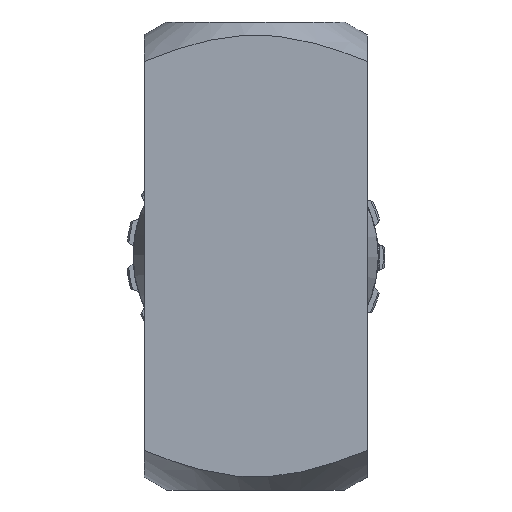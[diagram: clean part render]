
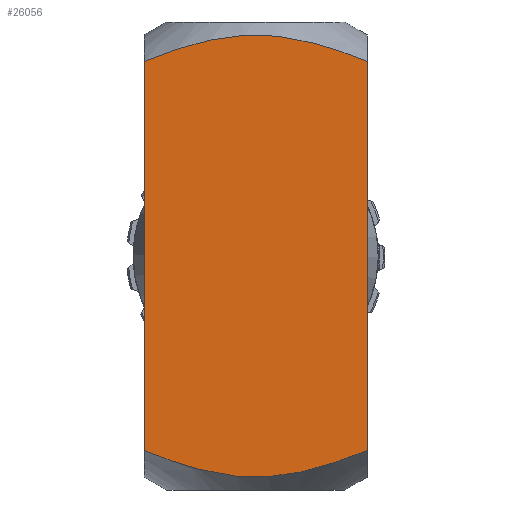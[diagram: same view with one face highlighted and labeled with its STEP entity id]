
A CAD part, front view. The second image highlights one B-rep face of the part: STEP entity #26056.
In plain terms, the highlighted planar face has unit normal (0, -1, 0).
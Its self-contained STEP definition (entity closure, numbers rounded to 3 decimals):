
#132 = CARTESIAN_POINT ( 'NONE',  ( 25., -25., 96.135 ) ) ;
#458 = CARTESIAN_POINT ( 'NONE',  ( -2.626, -25., 2.963 ) ) ;
#1526 = DIRECTION ( 'NONE',  ( 0., 0., 1. ) ) ;
#1592 = ORIENTED_EDGE ( 'NONE', *, *, #19883, .F. ) ;
#2486 = DIRECTION ( 'NONE',  ( 0., 0., -1. ) ) ;
#2592 = ORIENTED_EDGE ( 'NONE', *, *, #13751, .T. ) ;
#3212 = CARTESIAN_POINT ( 'NONE',  ( -0.45, -25., 102.114 ) ) ;
#3521 = CARTESIAN_POINT ( 'NONE',  ( 17.943, -25., 6.213 ) ) ;
#3669 = CARTESIAN_POINT ( 'NONE',  ( -5.328, -25., 3.199 ) ) ;
#4651 = FACE_OUTER_BOUND ( 'NONE', #39161, .T. ) ;
#5584 = LINE ( 'NONE', #40358, #22330 ) ;
#6253 = CARTESIAN_POINT ( 'NONE',  ( -17.906, -25., 98.799 ) ) ;
#6391 = CARTESIAN_POINT ( 'NONE',  ( 4.391, -25., 101.94 ) ) ;
#6715 = CARTESIAN_POINT ( 'NONE',  ( 14.855, -25., 5.235 ) ) ;
#6852 = CARTESIAN_POINT ( 'NONE',  ( -10.64, -25., 4.103 ) ) ;
#9424 = CARTESIAN_POINT ( 'NONE',  ( 25., -25., 8.865 ) ) ;
#9445 = CARTESIAN_POINT ( 'NONE',  ( -14.808, -25., 99.779 ) ) ;
#9575 = CARTESIAN_POINT ( 'NONE',  ( 10.71, -25., 100.881 ) ) ;
#9615 = CARTESIAN_POINT ( 'NONE',  ( 25., -25., 8.865 ) ) ;
#9653 = AXIS2_PLACEMENT_3D ( 'NONE', #39317, #20367, #1526 ) ;
#9902 = CARTESIAN_POINT ( 'NONE',  ( 10.71, -25., 4.119 ) ) ;
#10027 = CARTESIAN_POINT ( 'NONE',  ( -14.808, -25., 5.221 ) ) ;
#11616 = CARTESIAN_POINT ( 'NONE',  ( 25., -25., 96.135 ) ) ;
#12463 = ORIENTED_EDGE ( 'NONE', *, *, #17964, .F. ) ;
#12560 = CARTESIAN_POINT ( 'NONE',  ( -10.64, -25., 100.897 ) ) ;
#12697 = CARTESIAN_POINT ( 'NONE',  ( 14.855, -25., 99.765 ) ) ;
#13000 = CARTESIAN_POINT ( 'NONE',  ( 4.391, -25., 3.06 ) ) ;
#13141 = CARTESIAN_POINT ( 'NONE',  ( -17.906, -25., 6.201 ) ) ;
#13751 = EDGE_CURVE ( 'NONE', #35278, #37828, #5584, .T. ) ;
#15732 = CARTESIAN_POINT ( 'NONE',  ( -5.328, -25., 101.801 ) ) ;
#15855 = CARTESIAN_POINT ( 'NONE',  ( 17.943, -25., 98.787 ) ) ;
#16184 = CARTESIAN_POINT ( 'NONE',  ( -0.45, -25., 2.886 ) ) ;
#16309 = CARTESIAN_POINT ( 'NONE',  ( -22.998, -25., 8.048 ) ) ;
#17964 = EDGE_CURVE ( 'NONE', #34585, #37828, #18358, .T. ) ;
#18220 = CARTESIAN_POINT ( 'NONE',  ( 25., -25., 105. ) ) ;
#18358 = B_SPLINE_CURVE_WITH_KNOTS ( 'NONE', 3,
 ( #9615, #19249, #22364, #3521, #25565, #6715, #28723, #9902, #31941, #13000, #35099, #16184, #38286, #19366, #458, #22501, #3669, #25695, #6852, #28869, #10027, #32074, #13141, #35223, #16309, #38424 ),
 .UNSPECIFIED., .F., .F.,
 ( 4, 2, 2, 2, 2, 2, 2, 2, 2, 2, 2, 2, 4 ),
 ( 0.065, 0.072, 0.075, 0.078, 0.085, 0.091, 0.093, 0.094, 0.097, 0.104, 0.107, 0.11, 0.117 ),
 .UNSPECIFIED. ) ;
#18797 = CARTESIAN_POINT ( 'NONE',  ( -22.998, -25., 96.952 ) ) ;
#18939 = CARTESIAN_POINT ( 'NONE',  ( -2.626, -25., 102.037 ) ) ;
#19082 = CARTESIAN_POINT ( 'NONE',  ( 23.011, -25., 96.947 ) ) ;
#19249 = CARTESIAN_POINT ( 'NONE',  ( 23.011, -25., 8.053 ) ) ;
#19366 = CARTESIAN_POINT ( 'NONE',  ( -2.081, -25., 2.933 ) ) ;
#19883 = EDGE_CURVE ( 'NONE', #35278, #29716, #38314, .T. ) ;
#20367 = DIRECTION ( 'NONE',  ( 0., 1., 0. ) ) ;
#21264 = DIRECTION ( 'NONE',  ( 0., 0., -1. ) ) ;
#21918 = CARTESIAN_POINT ( 'NONE',  ( -25., -25., 96.135 ) ) ;
#22060 = CARTESIAN_POINT ( 'NONE',  ( -0.993, -25., 102.105 ) ) ;
#22330 = VECTOR ( 'NONE', #21264, 1000. ) ;
#22364 = CARTESIAN_POINT ( 'NONE',  ( 21.002, -25., 7.281 ) ) ;
#22501 = CARTESIAN_POINT ( 'NONE',  ( -4.252, -25., 3.081 ) ) ;
#25103 = CARTESIAN_POINT ( 'NONE',  ( -20.978, -25., 97.728 ) ) ;
#25239 = CARTESIAN_POINT ( 'NONE',  ( 2.255, -25., 102.109 ) ) ;
#25565 = CARTESIAN_POINT ( 'NONE',  ( 16.915, -25., 5.873 ) ) ;
#25695 = CARTESIAN_POINT ( 'NONE',  ( -8.532, -25., 3.657 ) ) ;
#26056 = ADVANCED_FACE ( 'NONE', ( #4651 ), #26596, .F. ) ;
#26104 = LINE ( 'NONE', #18220, #33541 ) ;
#26596 = PLANE ( 'NONE',  #9653 ) ;
#28282 = CARTESIAN_POINT ( 'NONE',  ( -16.875, -25., 99.14 ) ) ;
#28423 = CARTESIAN_POINT ( 'NONE',  ( 8.619, -25., 101.325 ) ) ;
#28549 = ORIENTED_EDGE ( 'NONE', *, *, #39533, .F. ) ;
#28723 = CARTESIAN_POINT ( 'NONE',  ( 13.822, -25., 4.937 ) ) ;
#28869 = CARTESIAN_POINT ( 'NONE',  ( -13.77, -25., 4.923 ) ) ;
#29716 = VERTEX_POINT ( 'NONE', #11616 ) ;
#31509 = CARTESIAN_POINT ( 'NONE',  ( -13.77, -25., 100.077 ) ) ;
#31641 = CARTESIAN_POINT ( 'NONE',  ( 13.822, -25., 100.063 ) ) ;
#31941 = CARTESIAN_POINT ( 'NONE',  ( 8.619, -25., 3.675 ) ) ;
#32074 = CARTESIAN_POINT ( 'NONE',  ( -16.875, -25., 5.86 ) ) ;
#33541 = VECTOR ( 'NONE', #2486, 1000. ) ;
#34585 = VERTEX_POINT ( 'NONE', #9424 ) ;
#34659 = CARTESIAN_POINT ( 'NONE',  ( -8.532, -25., 101.343 ) ) ;
#34798 = CARTESIAN_POINT ( 'NONE',  ( 16.915, -25., 99.127 ) ) ;
#35099 = CARTESIAN_POINT ( 'NONE',  ( 2.255, -25., 2.891 ) ) ;
#35223 = CARTESIAN_POINT ( 'NONE',  ( -20.978, -25., 7.272 ) ) ;
#35278 = VERTEX_POINT ( 'NONE', #40669 ) ;
#37828 = VERTEX_POINT ( 'NONE', #40135 ) ;
#37834 = CARTESIAN_POINT ( 'NONE',  ( -4.252, -25., 101.919 ) ) ;
#37982 = CARTESIAN_POINT ( 'NONE',  ( 21.002, -25., 97.719 ) ) ;
#38286 = CARTESIAN_POINT ( 'NONE',  ( -0.993, -25., 2.895 ) ) ;
#38314 = B_SPLINE_CURVE_WITH_KNOTS ( 'NONE', 3,
 ( #21918, #18797, #25103, #6253, #28282, #9445, #31509, #12560, #34659, #15732, #37834, #18939, #40987, #22060, #3212, #25239, #6391, #28423, #9575, #31641, #12697, #34798, #15855, #37982, #19082, #132 ),
 .UNSPECIFIED., .F., .F.,
 ( 4, 2, 2, 2, 2, 2, 2, 2, 2, 2, 2, 2, 4 ),
 ( 0.026, 0.033, 0.036, 0.039, 0.046, 0.049, 0.05, 0.052, 0.059, 0.065, 0.068, 0.072, 0.078 ),
 .UNSPECIFIED. ) ;
#38424 = CARTESIAN_POINT ( 'NONE',  ( -25., -25., 8.865 ) ) ;
#39161 = EDGE_LOOP ( 'NONE', ( #12463, #28549, #1592, #2592 ) ) ;
#39317 = CARTESIAN_POINT ( 'NONE',  ( -25., -25., 105. ) ) ;
#39533 = EDGE_CURVE ( 'NONE', #29716, #34585, #26104, .T. ) ;
#40135 = CARTESIAN_POINT ( 'NONE',  ( -25., -25., 8.865 ) ) ;
#40358 = CARTESIAN_POINT ( 'NONE',  ( -25., -25., 105. ) ) ;
#40669 = CARTESIAN_POINT ( 'NONE',  ( -25., -25., 96.135 ) ) ;
#40987 = CARTESIAN_POINT ( 'NONE',  ( -2.081, -25., 102.067 ) ) ;
